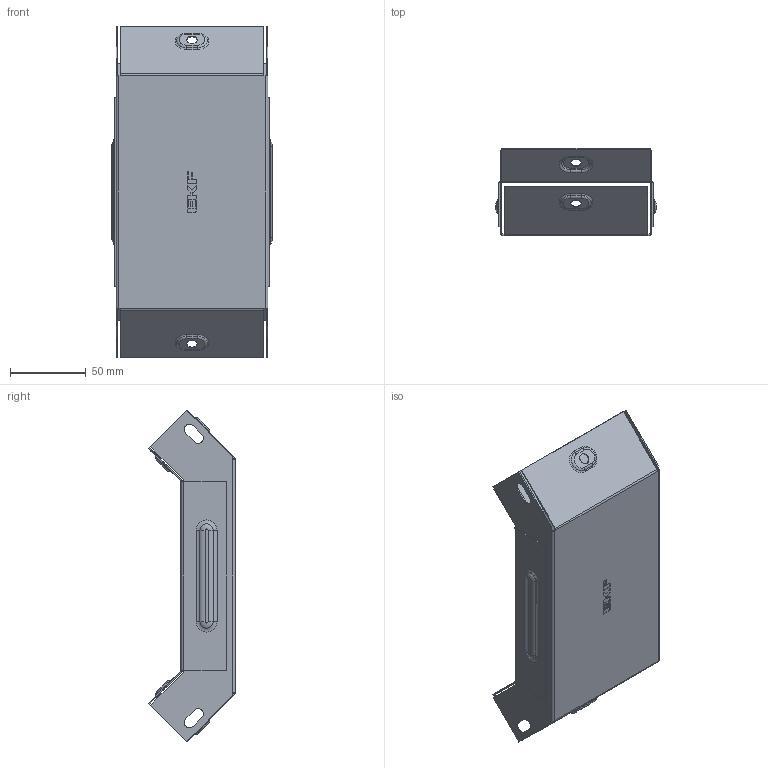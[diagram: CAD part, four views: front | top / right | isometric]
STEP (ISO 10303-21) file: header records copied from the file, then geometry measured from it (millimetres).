
FILE_DESCRIPTION (( 'STEP AP214' ), '1' );
FILE_NAME ('vi9035100_捘.STEP', '2019-06-10T09:20:10', ( '砐錪賧瘔蠈錪 Windows' ), ( '' ), 'SwSTEP 2.0', 'SolidWorks 2018', '' );
FILE_SCHEMA (( 'AUTOMOTIVE_DESIGN' ));
Length unit declared in the file: millimetre
Products named in the file (1): vi9035100_捘
Bounding box: 105.6 x 57.01 x 218.06 mm (x, y, z)
Volume: 50931.8 mm3; surface area: 128924 mm2
Topology: 2 solids, 2 shells, 416 faces, 1056 edges, 672 vertices
Faces by surface type: plane 222, cylinder 112, torus 64, bspline 18
Entity records: 13420 total; most frequent: CARTESIAN_POINT 3164, DIRECTION 2138, ORIENTED_EDGE 2112, EDGE_CURVE 1056, AXIS2_PLACEMENT_3D 719, VECTOR 700, LINE 700, VERTEX_POINT 672
